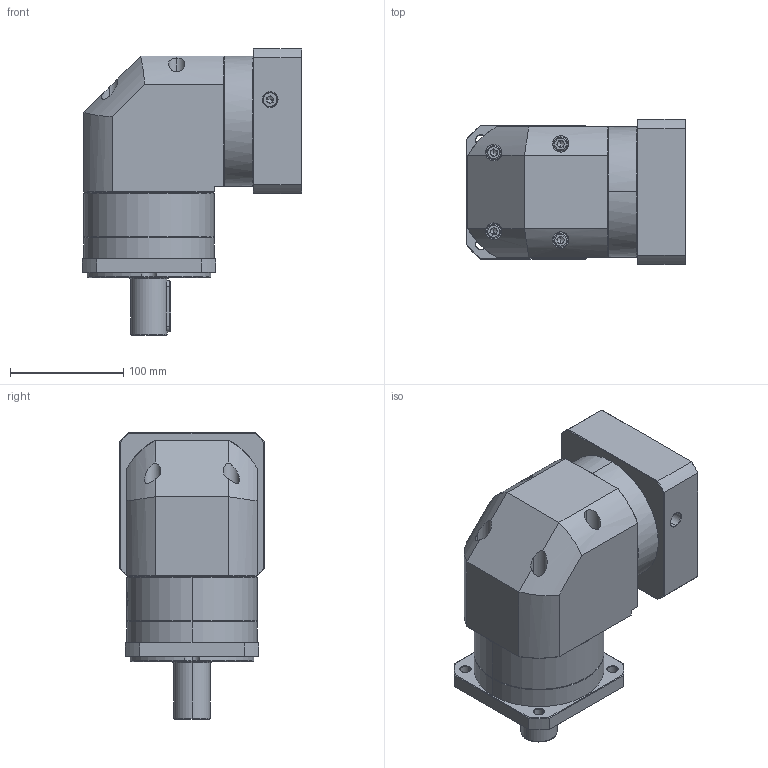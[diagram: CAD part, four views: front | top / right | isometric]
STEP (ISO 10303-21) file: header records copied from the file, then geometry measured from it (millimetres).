
FILE_DESCRIPTION (( 'STEP AP214' ), '1' );
FILE_NAME ('ZFR120A-D32-L1-P2-19-110-145-M8.step', '2023-08-27T08:06:23', ( '' ), ( '' ), 'SwSTEP 2.0', 'SolidWorks 2016', '' );
FILE_SCHEMA (( 'AUTOMOTIVE_DESIGN' ));
Length unit declared in the file: millimetre
Products named in the file (1): ZFR120A-D32-L1-P2-19-110-145-M8
Bounding box: 193.9 x 128 x 253 mm (x, y, z)
Volume: 2995156.1 mm3; surface area: 252819.9 mm2
Topology: 6 solids, 6 shells, 2265 faces, 5966 edges, 3806 vertices
Faces by surface type: plane 1061, cylinder 434, bspline 425, cone 337, torus 8
Entity records: 124359 total; most frequent: CARTESIAN_POINT 49049, ORIENTED_EDGE 11872, DIRECTION 8600, EDGE_CURVE 5936, VERTEX_POINT 3806, VECTOR 3158, LINE 3158, AXIS2_PLACEMENT_3D 2721
